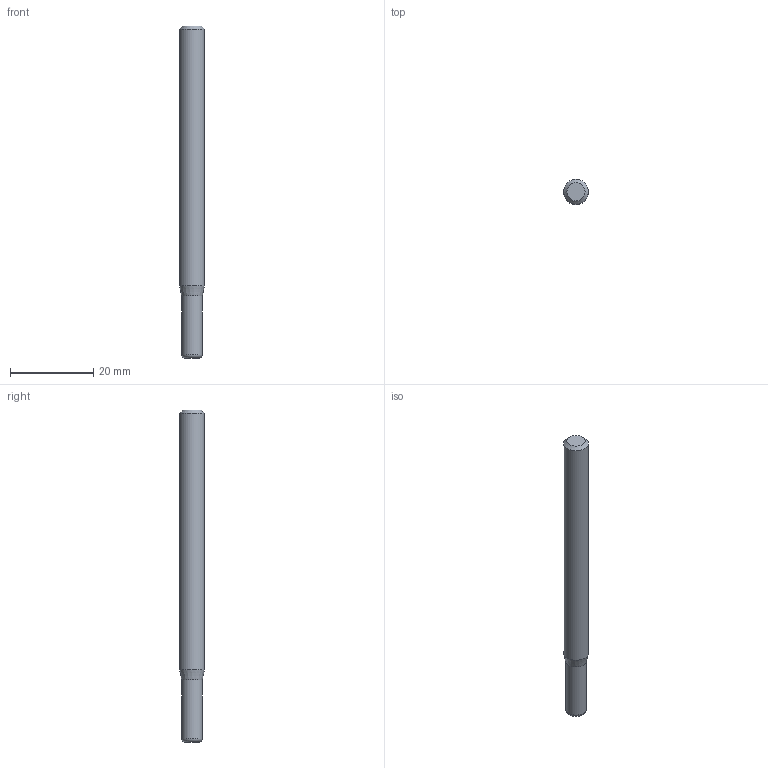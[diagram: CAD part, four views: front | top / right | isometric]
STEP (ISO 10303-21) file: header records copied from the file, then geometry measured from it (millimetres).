
FILE_DESCRIPTION((''),'2;1');
FILE_NAME('C:\Users\nsx150\AppData\Local\Temp\Mastercam 2021\03UJLO2QV3\TEMP.step','2023-09-20T09:29:46',(''),(''),'STEP Write','Mastercam 2021 ... CNC Software, Inc.','');
FILE_SCHEMA(('AUTOMOTIVE_DESIGN'));
Length unit declared in the file: millimetre
Products named in the file (1): None
Bounding box: 6 x 6 x 80 mm (x, y, z)
Volume: 2114.4 mm3; surface area: 1529.9 mm2
Topology: 2 solids, 2 shells, 9 faces, 12 edges, 7 vertices
Faces by surface type: plane 4, cylinder 2, cone 2, torus 1
Full cylindrical faces by diameter (mm): 5 x1, 6 x1
Entity records: 211 total; most frequent: DIRECTION 36, CARTESIAN_POINT 25, AXIS2_PLACEMENT_3D 18, ORIENTED_EDGE 14, EDGE_LOOP 14, STYLED_ITEM 12, ADVANCED_FACE 9, FACE_BOUND 8
